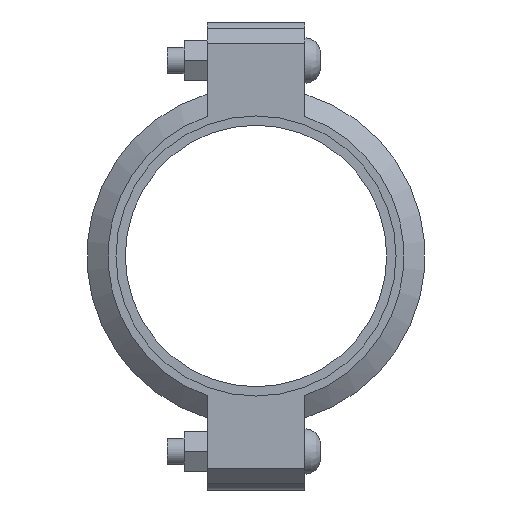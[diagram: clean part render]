
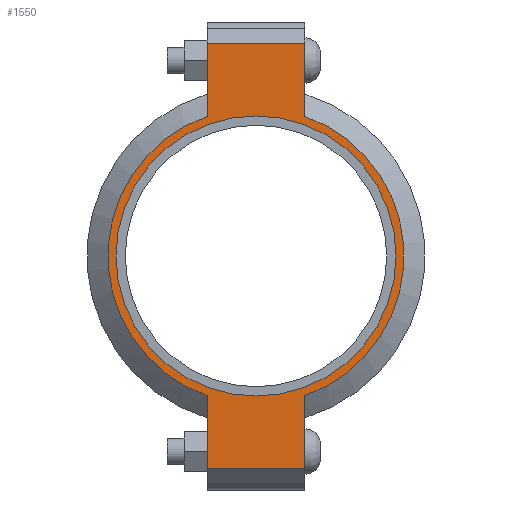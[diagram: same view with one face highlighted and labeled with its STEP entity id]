
A CAD part, left-side view. The second image highlights one B-rep face of the part: STEP entity #1550.
In plain terms, the highlighted planar face has unit normal (-1, 0, 0) as drawn and (0, 0, 1) by its records, which use the part's own axes.
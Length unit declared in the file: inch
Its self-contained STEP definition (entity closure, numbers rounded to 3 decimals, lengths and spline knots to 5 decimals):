
#174=LINE('',#2705,#267);
#182=LINE('',#2741,#275);
#189=LINE('',#2762,#282);
#198=LINE('',#2794,#291);
#199=LINE('',#2798,#292);
#200=LINE('',#2800,#293);
#267=VECTOR('',#2205,0.3937);
#275=VECTOR('',#2221,0.3937);
#282=VECTOR('',#2240,0.3937);
#291=VECTOR('',#2265,0.3937);
#292=VECTOR('',#2270,0.3937);
#293=VECTOR('',#2271,0.3937);
#349=FACE_BOUND('',#527,.T.);
#421=FACE_OUTER_BOUND('',#526,.T.);
#526=EDGE_LOOP('',(#1291,#1292,#1293,#1294,#1295,#1296,#1297,#1298));
#527=EDGE_LOOP('',(#1299));
#599=CIRCLE('',#1769,3.3125);
#625=CIRCLE('',#1828,3.5);
#626=CIRCLE('',#1829,3.5);
#691=VERTEX_POINT('',#2521);
#734=VERTEX_POINT('',#2702);
#735=VERTEX_POINT('',#2704);
#746=VERTEX_POINT('',#2736);
#747=VERTEX_POINT('',#2740);
#754=VERTEX_POINT('',#2759);
#755=VERTEX_POINT('',#2761);
#765=VERTEX_POINT('',#2797);
#766=VERTEX_POINT('',#2799);
#847=EDGE_CURVE('',#691,#691,#599,.T.);
#908=EDGE_CURVE('',#735,#734,#174,.T.);
#922=EDGE_CURVE('',#747,#746,#182,.T.);
#932=EDGE_CURVE('',#755,#754,#189,.T.);
#947=EDGE_CURVE('',#747,#734,#198,.T.);
#948=EDGE_CURVE('',#746,#755,#625,.T.);
#949=EDGE_CURVE('',#765,#754,#199,.T.);
#950=EDGE_CURVE('',#765,#766,#200,.T.);
#951=EDGE_CURVE('',#766,#735,#626,.T.);
#1291=ORIENTED_EDGE('',*,*,#947,.F.);
#1292=ORIENTED_EDGE('',*,*,#922,.T.);
#1293=ORIENTED_EDGE('',*,*,#948,.T.);
#1294=ORIENTED_EDGE('',*,*,#932,.T.);
#1295=ORIENTED_EDGE('',*,*,#949,.F.);
#1296=ORIENTED_EDGE('',*,*,#950,.T.);
#1297=ORIENTED_EDGE('',*,*,#951,.T.);
#1298=ORIENTED_EDGE('',*,*,#908,.T.);
#1299=ORIENTED_EDGE('',*,*,#847,.T.);
#1392=PLANE('',#1827);
#1550=ADVANCED_FACE('',(#421,#349),#1392,.T.);
#1769=AXIS2_PLACEMENT_3D('',#2523,#2081,#2082);
#1827=AXIS2_PLACEMENT_3D('',#2795,#2266,#2267);
#1828=AXIS2_PLACEMENT_3D('',#2796,#2268,#2269);
#1829=AXIS2_PLACEMENT_3D('',#2801,#2272,#2273);
#2081=DIRECTION('center_axis',(0.,0.,-1.));
#2082=DIRECTION('ref_axis',(-1.,0.,0.));
#2205=DIRECTION('',(-1.,0.,0.));
#2221=DIRECTION('',(1.,0.,0.));
#2240=DIRECTION('',(1.,0.,0.));
#2265=DIRECTION('',(0.,1.,0.));
#2266=DIRECTION('center_axis',(0.,0.,1.));
#2267=DIRECTION('ref_axis',(1.,0.,0.));
#2268=DIRECTION('center_axis',(0.,0.,1.));
#2269=DIRECTION('ref_axis',(-1.,0.,0.));
#2270=DIRECTION('',(0.,-1.,0.));
#2271=DIRECTION('',(-1.,0.,0.));
#2272=DIRECTION('center_axis',(0.,0.,1.));
#2273=DIRECTION('ref_axis',(-1.,0.,0.));
#2521=CARTESIAN_POINT('',(3.3125,0.,1.065));
#2523=CARTESIAN_POINT('Origin',(0.,0.,1.065));
#2702=CARTESIAN_POINT('',(-5.035,1.156,1.065));
#2704=CARTESIAN_POINT('',(-3.30358,1.156,1.065));
#2705=CARTESIAN_POINT('',(-5.535,1.156,1.065));
#2736=CARTESIAN_POINT('',(-3.30358,-1.156,1.065));
#2740=CARTESIAN_POINT('',(-5.035,-1.156,1.065));
#2741=CARTESIAN_POINT('',(5.535,-1.156,1.065));
#2759=CARTESIAN_POINT('',(5.035,-1.156,1.065));
#2761=CARTESIAN_POINT('',(3.30358,-1.156,1.065));
#2762=CARTESIAN_POINT('',(5.535,-1.156,1.065));
#2794=CARTESIAN_POINT('',(-5.035,0.578,1.065));
#2795=CARTESIAN_POINT('Origin',(0.,0.,1.065));
#2796=CARTESIAN_POINT('Origin',(0.,0.,1.065));
#2797=CARTESIAN_POINT('',(5.035,1.156,1.065));
#2798=CARTESIAN_POINT('',(5.035,-0.578,1.065));
#2799=CARTESIAN_POINT('',(3.30358,1.156,1.065));
#2800=CARTESIAN_POINT('',(-5.535,1.156,1.065));
#2801=CARTESIAN_POINT('Origin',(0.,0.,1.065));
